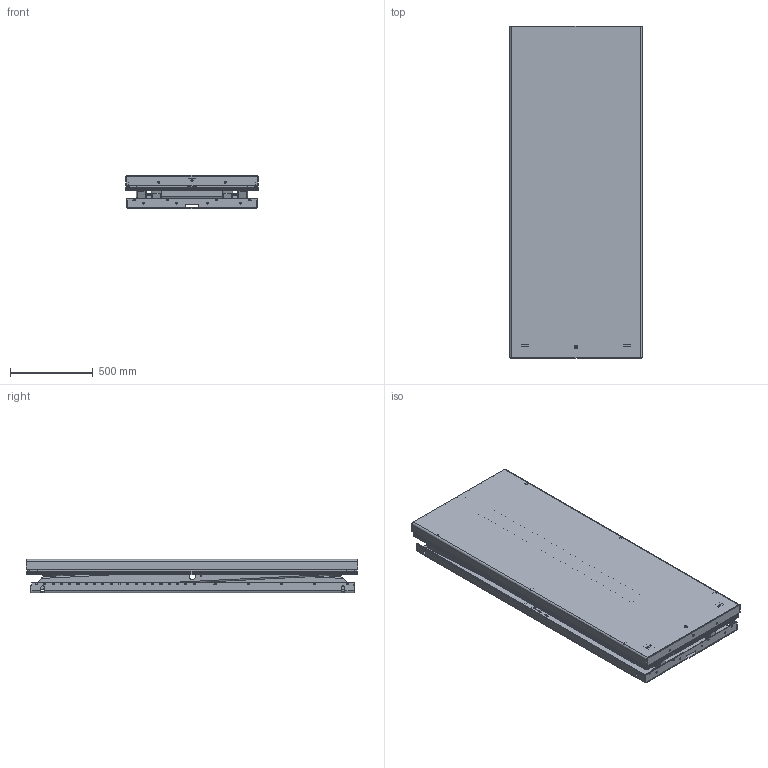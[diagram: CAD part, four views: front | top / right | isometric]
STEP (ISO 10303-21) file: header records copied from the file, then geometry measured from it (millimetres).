
FILE_DESCRIPTION(/* description */ ('TA 1000 (2000x800)'),/* implementation_level */ '2;1');
FILE_NAME(/* name */ 'C:\Autodesk_VaultWork\Ritningar\STP\33335_Closed-Height.stp',/* time_stamp */ '2016-10-27T14:05:18+02:00',/* author */ ('JOHSO'),/* organization */ (''),/* preprocessor_version */ 'ST-DEVELOPER v16.5',/* originating_system */ 'Autodesk Inventor 2017',/* authorisation */ '');
FILE_SCHEMA (('AUTOMOTIVE_DESIGN { 1 0 10303 214 3 1 1 }'));
Products named in the file (46): 33335_tmp; 33336; 44120; 36231; 601378; 44122; 44870; 612027; 33338; 82092 - 368; 33338-1; 33339; 33339-1; 82147 - 550; 33337; 601392; 42744; 45259; 42394; 80131; 85955; 41333-1300; 601394; 42289-1955; 42289-755; 611843; 43481; 42330; 33990; 33991; 44283; 44280; 44279; Compression-Spring-SF-TF1272-SS1774-04-Lesjofors-STEP; ISO 7089 - 5 - 140 HV; 84253; 44281; 44281-1; ISO 2009 - M4 x 12; 84076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
Assembly tree (84 placements, depth 5):
  33335_tmp
    33336
      44120  x3
      36231
      601378
      45259  x2
      44122
      44870  x2
    612027
      33338
        82092 - 368
        33338-1  x2
      33339
        33339-1  x2
        82147 - 550
    33337
      601392
      42744  x2
      45259  x2
      42394  x2
      80131  x6
      85955
      41333-1300
    601394
      42289-1955  x2
      42289-755  x2
      43481  x6
      42330  x6
      611843  x4
      33990  x2
        33991
        44283
        44280
        44279
        Compression-Spring-SF-TF1272-SS1774-04-Lesjofors-STEP
        ISO 7089 - 5 - 140 HV
        84253
        44281
          44281-1
          ISO 2009 - M4 x 12
        84076
        83928
        44277
        44278
        33992
        ISO 7380 - M4 x 10
      83552  x4
Bounding box: 800 x 2000 x 200 mm (x, y, z)
Volume: 28453123.4 mm3; surface area: 12408037.6 mm2
Topology: 97 solids, 97 shells, 5016 faces, 13846 edges, 9157 vertices
Faces by surface type: plane 2769, cylinder 1501, bspline 572, cone 114, torus 60
Full cylindrical faces by diameter (mm): 0.474 x2, 1 x4, 3 x4, 3.141 x4, 3.2 x4, 3.242 x4, 4 x14, 4.3 x4, 4.445 x4, 4.9 x2, 5 x4, 5.156 x4, 5.2 x6, 5.3 x4, 5.55 x6, 5.969 x4, 7 x6, 7.4 x8, 7.6 x4, 8 x12, 8.5 x6, 10 x6, 10.5 x10, 11 x2, 11.63 x6, 12 x4, 12.5 x6, 13 x6, 13.835 x1, 14.2 x16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
Entity records: 88064 total; most frequent: CARTESIAN_POINT 22729, ORIENTED_EDGE 13626, DIRECTION 12789, EDGE_CURVE 6812, VERTEX_POINT 4584, LINE 4445, VECTOR 4445, AXIS2_PLACEMENT_3D 4172
